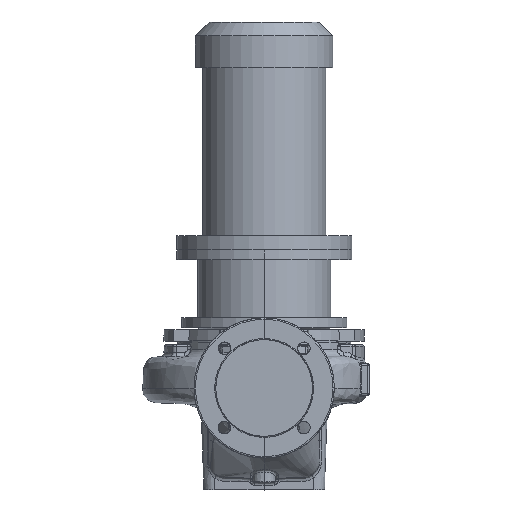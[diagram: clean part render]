
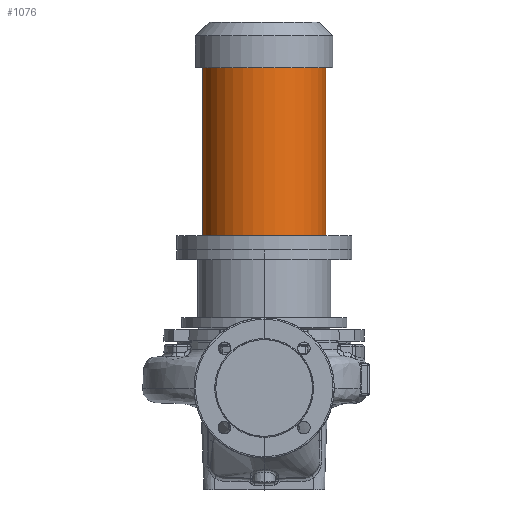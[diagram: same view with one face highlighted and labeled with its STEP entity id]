
A CAD part, top view. The second image highlights one B-rep face of the part: STEP entity #1076.
In plain terms, the highlighted cylindrical face has radius 88 mm (diameter 176 mm), a partial arc.
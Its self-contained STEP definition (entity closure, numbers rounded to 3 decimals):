
#997 = ORIENTED_EDGE ( 'NONE', *, *, #19473, .F. ) ;
#1076 = ADVANCED_FACE ( 'NONE', ( #66226 ), #61898, .T. ) ;
#2468 = VERTEX_POINT ( 'NONE', #60042 ) ;
#3831 = EDGE_LOOP ( 'NONE', ( #997, #20350, #6644, #58697 ) ) ;
#6644 = ORIENTED_EDGE ( 'NONE', *, *, #63179, .T. ) ;
#8303 = CARTESIAN_POINT ( 'NONE',  ( 0., 217.3, 0. ) ) ;
#9642 = DIRECTION ( 'NONE',  ( 0., -1., 0. ) ) ;
#10452 = VERTEX_POINT ( 'NONE', #33488 ) ;
#10811 = EDGE_CURVE ( 'NONE', #33565, #10452, #54391, .T. ) ;
#11877 = AXIS2_PLACEMENT_3D ( 'NONE', #14769, #9642, #37457 ) ;
#12006 = DIRECTION ( 'NONE',  ( 0., -1., 0. ) ) ;
#14769 = CARTESIAN_POINT ( 'NONE',  ( 0., 197.3, 0. ) ) ;
#19473 = EDGE_CURVE ( 'NONE', #33565, #2468, #64438, .T. ) ;
#20350 = ORIENTED_EDGE ( 'NONE', *, *, #10811, .T. ) ;
#21345 = CARTESIAN_POINT ( 'NONE',  ( -88., 217.3, 0. ) ) ;
#21480 = CARTESIAN_POINT ( 'NONE',  ( 88., 197.3, 0. ) ) ;
#22989 = CARTESIAN_POINT ( 'NONE',  ( -88., 197.3, 0. ) ) ;
#32870 = CARTESIAN_POINT ( 'NONE',  ( 88., 457.3, 0. ) ) ;
#33098 = DIRECTION ( 'NONE',  ( -1., 0., 0. ) ) ;
#33488 = CARTESIAN_POINT ( 'NONE',  ( -88., 457.3, 0. ) ) ;
#33565 = VERTEX_POINT ( 'NONE', #32870 ) ;
#35600 = VECTOR ( 'NONE', #66121, 1000. ) ;
#35881 = DIRECTION ( 'NONE',  ( 0., -1., 0. ) ) ;
#36604 = DIRECTION ( 'NONE',  ( -1., 0., 0. ) ) ;
#37457 = DIRECTION ( 'NONE',  ( -1., 0., 0. ) ) ;
#37517 = LINE ( 'NONE', #22989, #48877 ) ;
#38695 = CARTESIAN_POINT ( 'NONE',  ( 0., 457.3, 0. ) ) ;
#44796 = CIRCLE ( 'NONE', #48961, 88. ) ;
#44958 = EDGE_CURVE ( 'NONE', #2468, #55577, #44796, .T. ) ;
#48877 = VECTOR ( 'NONE', #12006, 1000. ) ;
#48961 = AXIS2_PLACEMENT_3D ( 'NONE', #8303, #35881, #36604 ) ;
#54391 = CIRCLE ( 'NONE', #65110, 88. ) ;
#55577 = VERTEX_POINT ( 'NONE', #21345 ) ;
#58697 = ORIENTED_EDGE ( 'NONE', *, *, #44958, .F. ) ;
#60042 = CARTESIAN_POINT ( 'NONE',  ( 88., 217.3, 0. ) ) ;
#60900 = DIRECTION ( 'NONE',  ( 0., -1., 0. ) ) ;
#61898 = CYLINDRICAL_SURFACE ( 'NONE', #11877, 88. ) ;
#63179 = EDGE_CURVE ( 'NONE', #10452, #55577, #37517, .T. ) ;
#64438 = LINE ( 'NONE', #21480, #35600 ) ;
#65110 = AXIS2_PLACEMENT_3D ( 'NONE', #38695, #60900, #33098 ) ;
#66121 = DIRECTION ( 'NONE',  ( 0., -1., 0. ) ) ;
#66226 = FACE_OUTER_BOUND ( 'NONE', #3831, .T. ) ;
